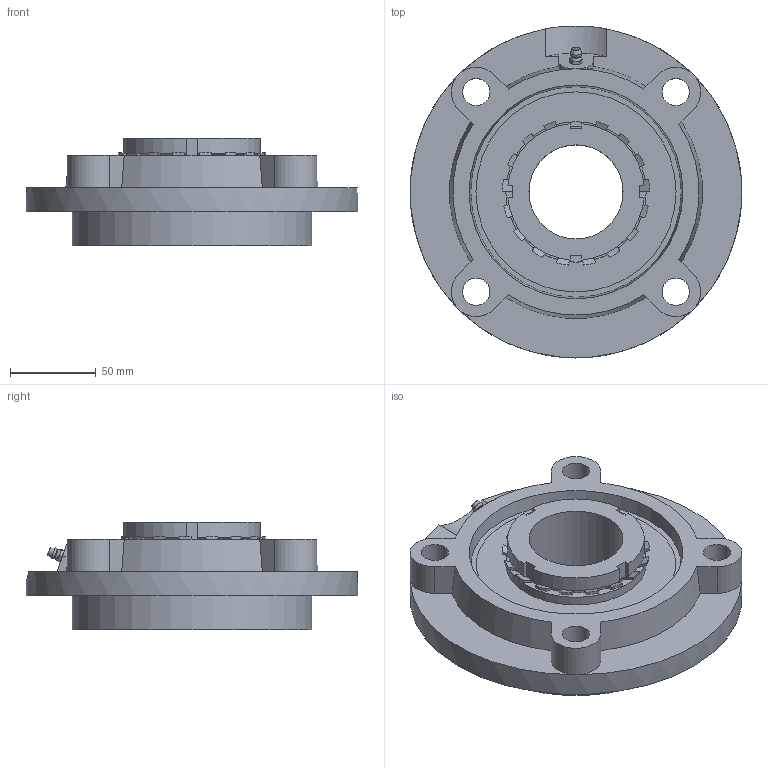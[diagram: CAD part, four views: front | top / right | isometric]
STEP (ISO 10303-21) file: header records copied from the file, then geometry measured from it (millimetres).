
FILE_DESCRIPTION((''),'2;1');
FILE_NAME('\\Ts-tgl068\j-cad-d-base\00.3DCADデータ作成フォルダ\02.フランジ形\UKFCX\UKFCX12+H.stp','2014-12-10T08:24:59',('btec_1106_2'),(''),'Autodesk Inventor 2012','Autodesk Inventor 2012','');
FILE_SCHEMA(('AUTOMOTIVE_DESIGN { 1 0 10303 214 1 1 1 1 }'));
Length unit declared in the file: millimetre
Products named in the file (4): UKFCX00+H; FCX12; UKX12+H; GU1
Assembly tree (3 placements, depth 2):
  UKFCX00+H
    FCX12
    UKX12+H
    GU1
Bounding box: 194 x 194 x 63 mm (x, y, z)
Volume: 755999.1 mm3; surface area: 142998.5 mm2
Topology: 3 solids, 3 shells, 205 faces, 522 edges, 331 vertices
Faces by surface type: plane 89, cylinder 56, cone 54, sphere 4, torus 2
Full cylindrical faces by diameter (mm): 5.359 x1, 6.35 x1, 16 x4, 55 x1, 60 x1, 82.1 x2, 140 x1, 194 x1
Entity records: 6125 total; most frequent: CARTESIAN_POINT 1324, DIRECTION 984, ORIENTED_EDGE 982, EDGE_CURVE 491, AXIS2_PLACEMENT_3D 398, VERTEX_POINT 323, EDGE_LOOP 252, FACE_OUTER_BOUND 205
